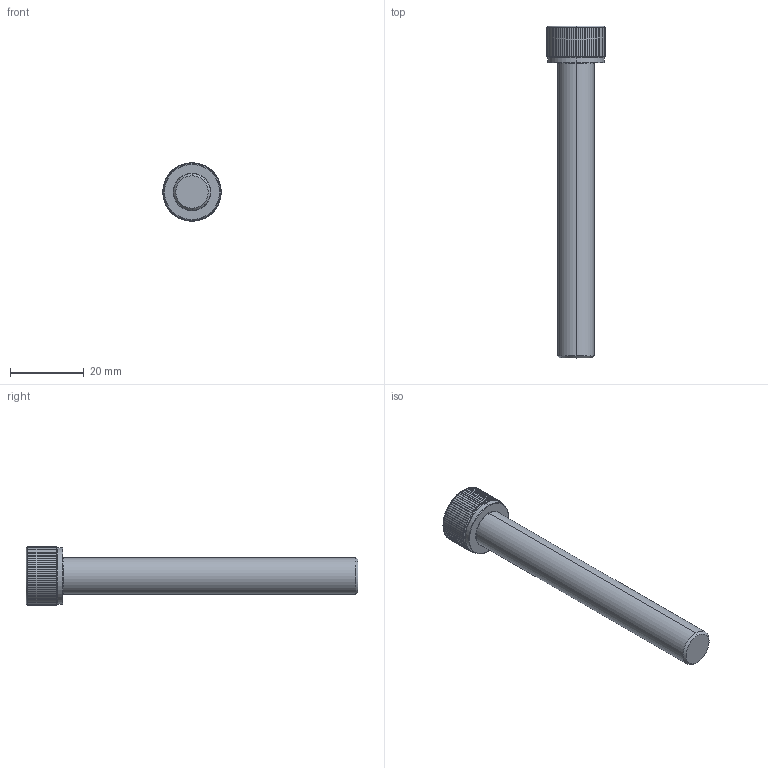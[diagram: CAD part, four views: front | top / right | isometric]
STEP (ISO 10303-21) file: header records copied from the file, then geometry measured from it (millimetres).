
FILE_DESCRIPTION (( 'STEP AP203' ), '1' );
FILE_NAME ('LGDT-304-M10x80.STEP', '2026-08-10T07:30:41', ( '' ), ( '' ), 'SwSTEP 2.0', 'SolidWorks 2020', '' );
FILE_SCHEMA (( 'CONFIG_CONTROL_DESIGN' ));
Length unit declared in the file: millimetre
Products named in the file (1): LGDT-304-M10x80
Bounding box: 15.8 x 90 x 15.8 mm (x, y, z)
Volume: 7878.3 mm3; surface area: 3530.4 mm2
Topology: 1 solids, 1 shells, 204 faces, 576 edges, 376 vertices
Faces by surface type: cylinder 175, cone 11, plane 10, torus 8
Entity records: 8367 total; most frequent: CARTESIAN_POINT 3208, ORIENTED_EDGE 1152, DIRECTION 988, EDGE_CURVE 576, AXIS2_PLACEMENT_3D 398, VERTEX_POINT 376, EDGE_LOOP 206, ADVANCED_FACE 204
